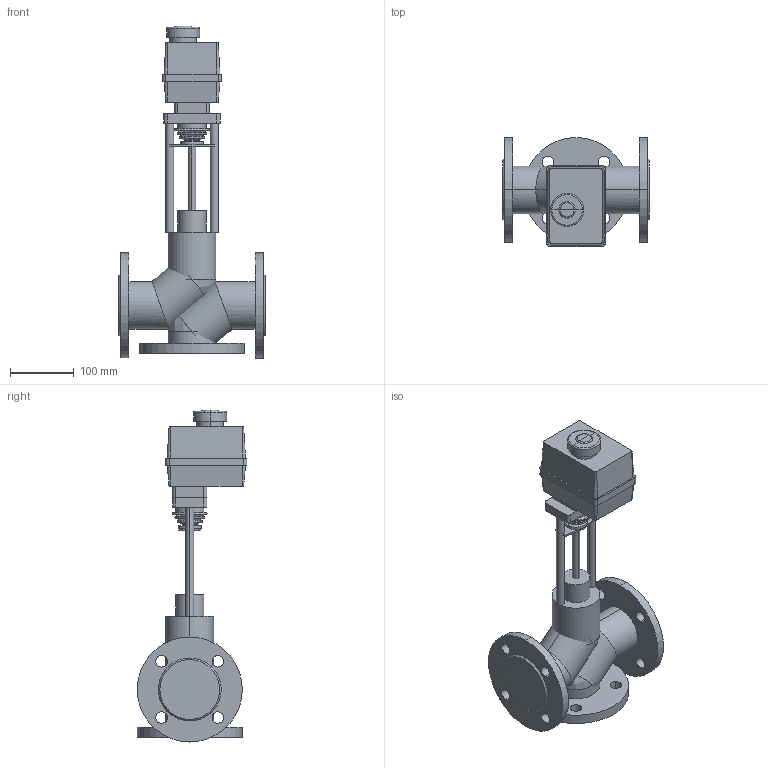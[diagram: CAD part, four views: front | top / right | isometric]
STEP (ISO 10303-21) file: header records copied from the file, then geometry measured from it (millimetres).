
FILE_DESCRIPTION(/* description */ (''),/* implementation_level */ '2;1');
FILE_NAME(/* name */ 'ТРК DN50 PN 1.6 МПа Regada ST0',/* time_stamp */ '2026-07-14T23:18:15+03:00',/* author */ (''),/* organization */ (''),/* preprocessor_version */ 'ST-DEVELOPER v20',/* originating_system */ '',/* authorisation */ '');
FILE_SCHEMA (('AP242_MANAGED_MODEL_BASED_3D_ENGINEERING_MIM_LF { 1 0 10303 442 1 1 4 }'));
Length unit declared in the file: millimetre
Products named in the file (13): TopLevelAssembly; Выдавливание; Модификатор; Модификатор_1; Выдавливание_
1; Выдавливание_
2; Вращение; Выдавливание_
3; Выдавливание_
4; Привод_Regada ST 0; Переход; Объемная геометрия 
присоединена; Объемная геометрия 
присоединена_1
Assembly tree (12 placements, depth 2):
  TopLevelAssembly
    Выдавливание
    Модификатор
    Модификатор_1
    Выдавливание_
1
    Выдавливание_
2
    Вращение
    Выдавливание_
3
    Выдавливание_
4
    Привод_Regada ST 0
    Переход
    Объемная геометрия 
присоединена
    Объемная геометрия 
присоединена_1
Bounding box: 230 x 172.01 x 521.49 mm (x, y, z)
Volume: 3976440 mm3; surface area: 494481.8 mm2
Topology: 23 solids, 23 shells, 207 faces, 437 edges, 270 vertices
Faces by surface type: plane 87, cylinder 80, bspline 28, cone 12
Entity records: 6385 total; most frequent: CARTESIAN_POINT 1363, DIRECTION 1064, ORIENTED_EDGE 858, AXIS2_PLACEMENT_3D 431, EDGE_CURVE 429, VERTEX_POINT 270, EDGE_LOOP 237, CIRCLE 219
